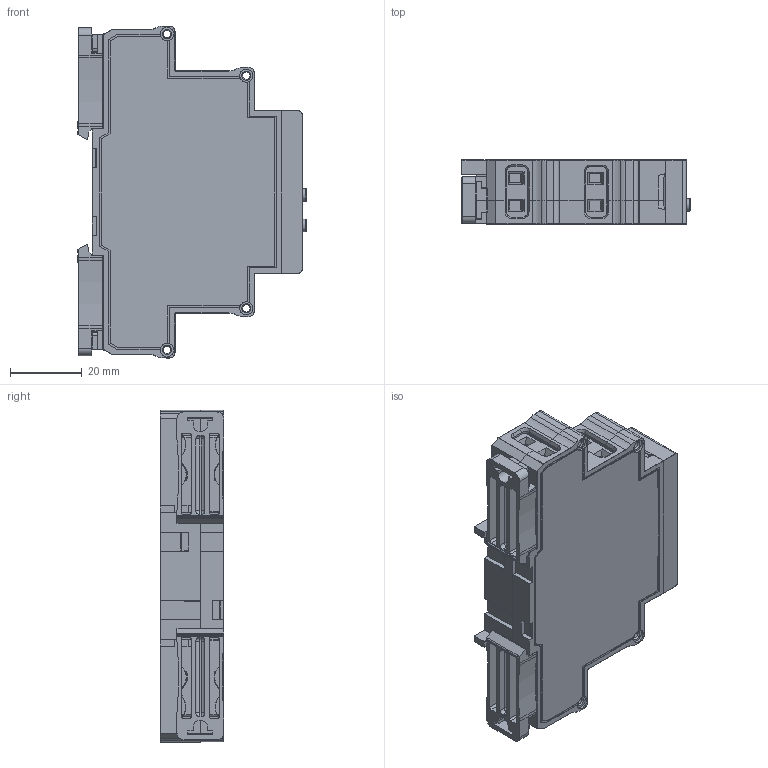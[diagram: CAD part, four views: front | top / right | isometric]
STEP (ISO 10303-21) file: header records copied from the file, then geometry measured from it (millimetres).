
FILE_DESCRIPTION(('STEP AP242'), '1');
FILE_NAME('ﾑ碚濱ﾒﾐ-ﾌ02', '', ('UNSPECIFIED'), ('UNSPECIFIED'), 'C3D Converter', 'C3D Toolkit', '');
FILE_SCHEMA(('AP242_MANAGED_MODEL_BASED_3D_ENGINEERING_MIM_LF { 1 0 10303 442 1 1 4 }'));
Length unit declared in the file: millimetre
Products named in the file (15): Case_UC1-2sR-2024_SimpleModel_6mm; Case_UC1-2sR-2024_SimpleModel_11mm; UC1-2sR-2024_Plug_18mm; Case_UC1-2sR_Face_2024_18mm__FR.FP.0000037; Case13-18-23mm_2step_Lock_v01a_Build20140909_1552; DG128-5.08_Configurable_5.08x3
Assembly tree (17 placements, depth 2):
  (unnamed)
    Case_UC1-2sR-2024_SimpleModel_6mm
    Case_UC1-2sR-2024_SimpleModel_11mm
    UC1-2sR-2024_Plug_18mm
    Case_UC1-2sR_Face_2024_18mm__FR.FP.0000037
    Case13-18-23mm_2step_Lock_v01a_Build20140909_1552  x2
    (unnamed)  x2
    DG128-5.08_Configurable_5.08x3
    (unnamed)
    (unnamed)  x2
    (unnamed)
    (unnamed)
    (unnamed)
    (unnamed)
    (unnamed)
Bounding box: 63.73 x 17.75 x 92.4 mm (x, y, z)
Volume: 24921.1 mm3; surface area: 37963.5 mm2
Topology: 32 solids, 32 shells, 3626 faces, 10073 edges, 6527 vertices
Faces by surface type: plane 2800, cylinder 413, extrusion 194, torus 115, cone 48, sphere 36, bspline 20
Full cylindrical faces by diameter (mm): 1.238 x3, 2.1 x9, 2.3 x1, 2.4 x1, 3.5 x2, 3.7 x8, 3.8 x2, 3.9 x7
Entity records: 140483 total; most frequent: CARTESIAN_POINT 23764, ORIENTED_EDGE 19204, DIRECTION 16748, EDGE_CURVE 9602, VECTOR 8376, LINE 8182, VERTEX_POINT 6274, AXIS2_PLACEMENT_3D 4186
